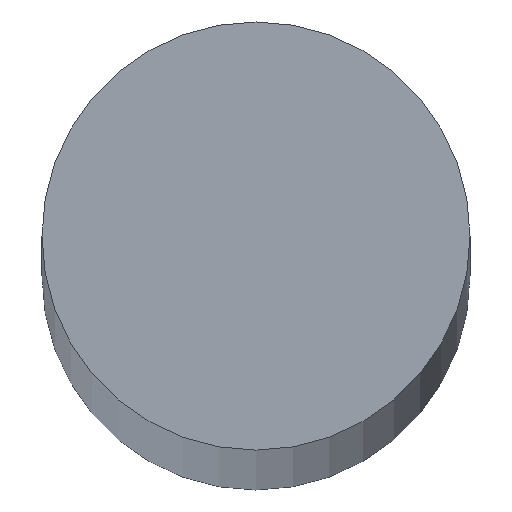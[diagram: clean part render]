
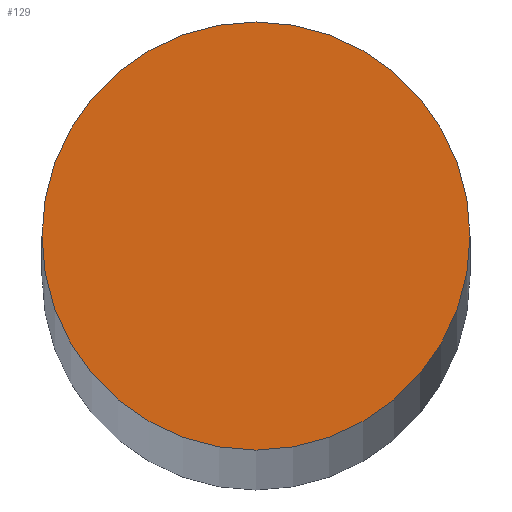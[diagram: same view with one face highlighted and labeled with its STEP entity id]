
A CAD part, top view. The second image highlights one B-rep face of the part: STEP entity #129.
In plain terms, the highlighted planar face has unit normal (0, 0, 1).
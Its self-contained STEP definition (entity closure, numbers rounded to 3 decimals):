
#6 = EDGE_LOOP ( 'NONE', ( #16, #15 ) ) ;
#15 = ORIENTED_EDGE ( 'NONE', *, *, #66, .T. ) ;
#16 = ORIENTED_EDGE ( 'NONE', *, *, #68, .T. ) ;
#32 = CIRCLE ( 'NONE', #85, 6. ) ;
#33 = CIRCLE ( 'NONE', #78, 6. ) ;
#38 = FACE_OUTER_BOUND ( 'NONE', #6, .T. ) ;
#64 = AXIS2_PLACEMENT_3D ( 'NONE', #124, #126, #127 ) ;
#66 = EDGE_CURVE ( 'NONE', #88, #92, #32, .T. ) ;
#68 = EDGE_CURVE ( 'NONE', #92, #88, #33, .T. ) ;
#78 = AXIS2_PLACEMENT_3D ( 'NONE', #103, #104, #105 ) ;
#85 = AXIS2_PLACEMENT_3D ( 'NONE', #100, #101, #102 ) ;
#88 = VERTEX_POINT ( 'NONE', #114 ) ;
#92 = VERTEX_POINT ( 'NONE', #118 ) ;
#100 = CARTESIAN_POINT ( 'NONE',  ( 0., 0., 320.5 ) ) ;
#101 = DIRECTION ( 'NONE',  ( 0., 0., 1. ) ) ;
#102 = DIRECTION ( 'NONE',  ( 1., 0., 0. ) ) ;
#103 = CARTESIAN_POINT ( 'NONE',  ( 0., 0., 320.5 ) ) ;
#104 = DIRECTION ( 'NONE',  ( 0., 0., 1. ) ) ;
#105 = DIRECTION ( 'NONE',  ( 1., 0., 0. ) ) ;
#114 = CARTESIAN_POINT ( 'NONE',  ( 6., 0., 320.5 ) ) ;
#118 = CARTESIAN_POINT ( 'NONE',  ( -6., 0., 320.5 ) ) ;
#124 = CARTESIAN_POINT ( 'NONE',  ( 0., 0., 320.5 ) ) ;
#125 = PLANE ( 'NONE',  #64 ) ;
#126 = DIRECTION ( 'NONE',  ( 0., 0., 1. ) ) ;
#127 = DIRECTION ( 'NONE',  ( 1., 0., 0. ) ) ;
#129 = ADVANCED_FACE ( 'NONE', ( #38 ), #125, .T. ) ;
